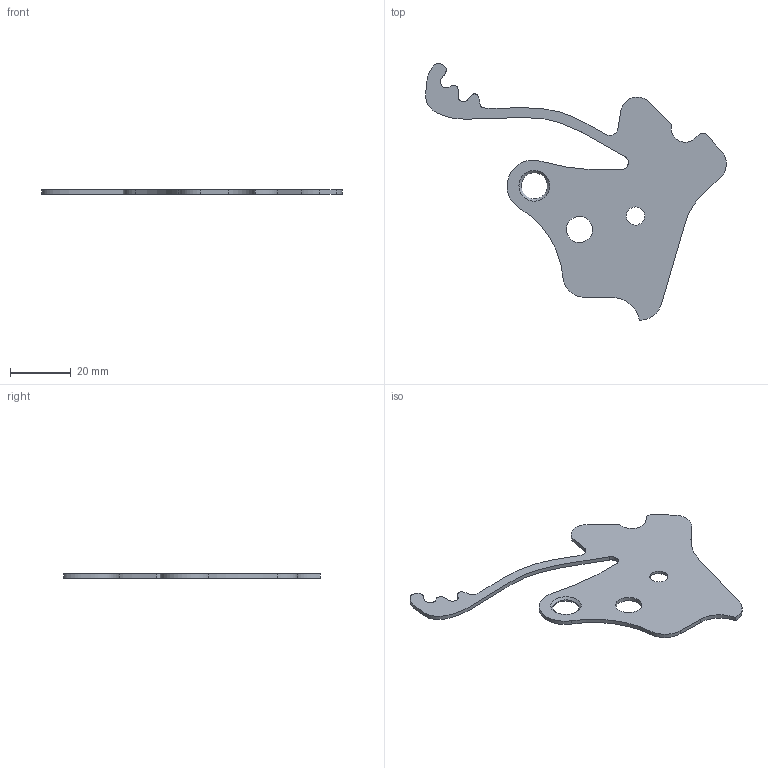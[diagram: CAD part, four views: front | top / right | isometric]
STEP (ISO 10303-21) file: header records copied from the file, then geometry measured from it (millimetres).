
FILE_DESCRIPTION(/* description */ (''),/* implementation_level */ '2;1');
FILE_NAME(/* name */ 'D:\Desktop\Benchmark CAD Files\ScaledBy6\plate6.stp',/* time_stamp */ '2019-08-13T08:24:05+02:00',/* author */ ('fkhad'),/* organization */ (''),/* preprocessor_version */ 'ST-DEVELOPER v17',/* originating_system */ 'Autodesk Inventor 2018',/* authorisation */ '');
FILE_SCHEMA (('AUTOMOTIVE_DESIGN { 1 0 10303 214 3 1 1 }'));
Length unit declared in the file: millimetre
Products named in the file (1): Plate
Bounding box: 98.96 x 84.49 x 1.32 mm (x, y, z)
Volume: 3682.7 mm3; surface area: 6285.9 mm2
Topology: 1 solids, 1 shells, 30 faces, 84 edges, 56 vertices
Faces by surface type: cylinder 13, plane 10, bspline 5, cone 2
Full cylindrical faces by diameter (mm): 6.01 x1, 8.62 x2
Entity records: 1235 total; most frequent: CARTESIAN_POINT 376, ORIENTED_EDGE 168, DIRECTION 156, EDGE_CURVE 84, VERTEX_POINT 56, AXIS2_PLACEMENT_3D 56, LINE 44, VECTOR 44
